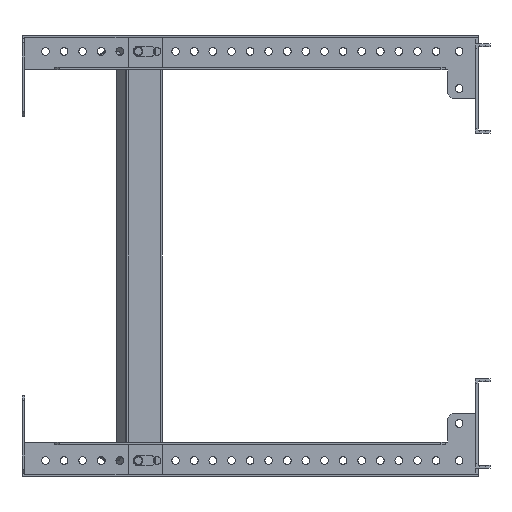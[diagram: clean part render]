
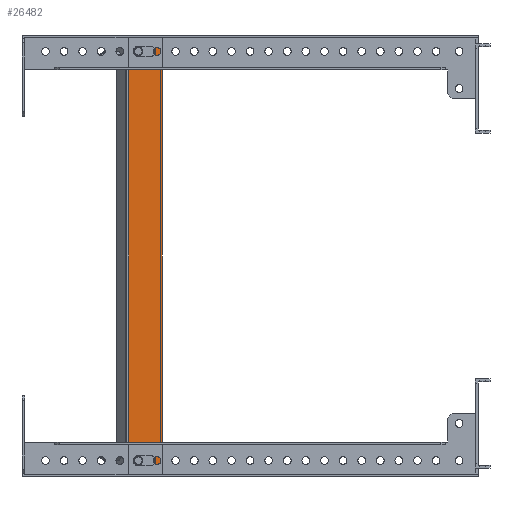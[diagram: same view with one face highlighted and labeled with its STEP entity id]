
A CAD part, front view. The second image highlights one B-rep face of the part: STEP entity #26482.
In plain terms, the highlighted planar face has unit normal (0, -1, 0).
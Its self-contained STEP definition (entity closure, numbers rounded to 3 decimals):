
#71 = EDGE_CURVE ( 'NONE', #9405, #11727, #2263, .T. ) ;
#706 = DIRECTION ( 'NONE',  ( 0., 1., 0. ) ) ;
#759 = CIRCLE ( 'NONE', #1211, 3.5 ) ;
#1138 = DIRECTION ( 'NONE',  ( 0., 1., 0. ) ) ;
#1211 = AXIS2_PLACEMENT_3D ( 'NONE', #3841, #23213, #12353 ) ;
#1271 = LINE ( 'NONE', #14102, #6064 ) ;
#1375 = CARTESIAN_POINT ( 'NONE',  ( 1105.77, -253.815, -147.5 ) ) ;
#1735 = VERTEX_POINT ( 'NONE', #25307 ) ;
#1842 = FACE_OUTER_BOUND ( 'NONE', #18860, .T. ) ;
#1977 = CARTESIAN_POINT ( 'NONE',  ( 1150.737, -253.815, 0. ) ) ;
#2080 = LINE ( 'NONE', #6403, #17326 ) ;
#2263 = CIRCLE ( 'NONE', #12085, 3.5 ) ;
#2271 = AXIS2_PLACEMENT_3D ( 'NONE', #1977, #20653, #16619 ) ;
#2337 = CARTESIAN_POINT ( 'NONE',  ( 1105.77, -253.815, -147.5 ) ) ;
#2359 = VERTEX_POINT ( 'NONE', #3775 ) ;
#2439 = CARTESIAN_POINT ( 'NONE',  ( 1108.77, -253.815, 137.5 ) ) ;
#2601 = ORIENTED_EDGE ( 'NONE', *, *, #8710, .F. ) ;
#2612 = LINE ( 'NONE', #26031, #22251 ) ;
#3095 = DIRECTION ( 'NONE',  ( 0., 0., 1. ) ) ;
#3204 = DIRECTION ( 'NONE',  ( -1., 0., 0. ) ) ;
#3479 = CIRCLE ( 'NONE', #26244, 3.5 ) ;
#3596 = EDGE_CURVE ( 'NONE', #26574, #19999, #9375, .T. ) ;
#3775 = CARTESIAN_POINT ( 'NONE',  ( 1120.27, -253.815, 134. ) ) ;
#3841 = CARTESIAN_POINT ( 'NONE',  ( 1120.27, -253.815, -137.5 ) ) ;
#4091 = VERTEX_POINT ( 'NONE', #27291 ) ;
#4719 = DIRECTION ( 'NONE',  ( -1., 0., 0. ) ) ;
#5126 = AXIS2_PLACEMENT_3D ( 'NONE', #15613, #15192, #4719 ) ;
#5410 = VERTEX_POINT ( 'NONE', #9397 ) ;
#5493 = ORIENTED_EDGE ( 'NONE', *, *, #23642, .F. ) ;
#5541 = ORIENTED_EDGE ( 'NONE', *, *, #26620, .T. ) ;
#5559 = LINE ( 'NONE', #11971, #7805 ) ;
#5907 = DIRECTION ( 'NONE',  ( -1., 0., 0. ) ) ;
#6064 = VECTOR ( 'NONE', #22449, 1000. ) ;
#6322 = EDGE_CURVE ( 'NONE', #19887, #1735, #759, .T. ) ;
#6403 = CARTESIAN_POINT ( 'NONE',  ( 1112.27, -253.815, -141. ) ) ;
#6559 = CARTESIAN_POINT ( 'NONE',  ( 1128.272, -253.815, -147.5 ) ) ;
#6730 = CIRCLE ( 'NONE', #17876, 3.5 ) ;
#6919 = VECTOR ( 'NONE', #3095, 1000. ) ;
#7274 = CARTESIAN_POINT ( 'NONE',  ( 1112.27, -253.815, -141. ) ) ;
#7623 = ORIENTED_EDGE ( 'NONE', *, *, #10801, .F. ) ;
#7805 = VECTOR ( 'NONE', #14086, 1000. ) ;
#7979 = FACE_BOUND ( 'NONE', #26967, .T. ) ;
#8079 = ORIENTED_EDGE ( 'NONE', *, *, #6322, .F. ) ;
#8112 = EDGE_CURVE ( 'NONE', #11727, #19887, #2080, .T. ) ;
#8710 = EDGE_CURVE ( 'NONE', #1735, #15584, #23613, .T. ) ;
#8744 = DIRECTION ( 'NONE',  ( -1., 0., 0. ) ) ;
#8812 = CARTESIAN_POINT ( 'NONE',  ( 1112.27, -253.815, -134. ) ) ;
#9061 = ORIENTED_EDGE ( 'NONE', *, *, #10681, .F. ) ;
#9097 = DIRECTION ( 'NONE',  ( -1., 0., 0. ) ) ;
#9375 = LINE ( 'NONE', #26658, #6919 ) ;
#9397 = CARTESIAN_POINT ( 'NONE',  ( 1112.27, -253.815, 141. ) ) ;
#9405 = VERTEX_POINT ( 'NONE', #21053 ) ;
#9625 = VERTEX_POINT ( 'NONE', #14081 ) ;
#10079 = PLANE ( 'NONE',  #2271 ) ;
#10681 = EDGE_CURVE ( 'NONE', #15584, #9405, #27372, .T. ) ;
#10801 = EDGE_CURVE ( 'NONE', #9625, #19999, #5559, .T. ) ;
#11253 = DIRECTION ( 'NONE',  ( 0., 0., 1. ) ) ;
#11400 = CARTESIAN_POINT ( 'NONE',  ( 1128.272, -253.815, 147.5 ) ) ;
#11727 = VERTEX_POINT ( 'NONE', #7274 ) ;
#11971 = CARTESIAN_POINT ( 'NONE',  ( 1105.77, -253.815, 147.5 ) ) ;
#11992 = DIRECTION ( 'NONE',  ( -1., 0., 0. ) ) ;
#12085 = AXIS2_PLACEMENT_3D ( 'NONE', #12718, #16516, #5907 ) ;
#12124 = ORIENTED_EDGE ( 'NONE', *, *, #15849, .T. ) ;
#12353 = DIRECTION ( 'NONE',  ( -1., 0., 0. ) ) ;
#12718 = CARTESIAN_POINT ( 'NONE',  ( 1112.27, -253.815, -137.5 ) ) ;
#12833 = DIRECTION ( 'NONE',  ( -1., 0., 0. ) ) ;
#12905 = VECTOR ( 'NONE', #11253, 1000. ) ;
#14036 = VERTEX_POINT ( 'NONE', #21713 ) ;
#14072 = EDGE_LOOP ( 'NONE', ( #16961, #18276, #9061, #2601, #8079 ) ) ;
#14081 = CARTESIAN_POINT ( 'NONE',  ( 1105.77, -253.815, 147.5 ) ) ;
#14086 = DIRECTION ( 'NONE',  ( 1., 0., 0. ) ) ;
#14102 = CARTESIAN_POINT ( 'NONE',  ( 1112.27, -253.815, 141. ) ) ;
#14592 = VECTOR ( 'NONE', #23830, 1000. ) ;
#14673 = FACE_BOUND ( 'NONE', #14072, .T. ) ;
#15192 = DIRECTION ( 'NONE',  ( 0., -1., 0. ) ) ;
#15204 = CARTESIAN_POINT ( 'NONE',  ( 1120.27, -253.815, 137.5 ) ) ;
#15584 = VERTEX_POINT ( 'NONE', #16400 ) ;
#15613 = CARTESIAN_POINT ( 'NONE',  ( 1112.27, -253.815, -137.5 ) ) ;
#15849 = EDGE_CURVE ( 'NONE', #16582, #5410, #3479, .T. ) ;
#16052 = CARTESIAN_POINT ( 'NONE',  ( 1112.27, -253.815, 137.5 ) ) ;
#16311 = AXIS2_PLACEMENT_3D ( 'NONE', #16052, #20497, #3204 ) ;
#16400 = CARTESIAN_POINT ( 'NONE',  ( 1112.27, -253.815, -134. ) ) ;
#16516 = DIRECTION ( 'NONE',  ( 0., -1., 0. ) ) ;
#16582 = VERTEX_POINT ( 'NONE', #2439 ) ;
#16619 = DIRECTION ( 'NONE',  ( 1., 0., 0. ) ) ;
#16961 = ORIENTED_EDGE ( 'NONE', *, *, #8112, .F. ) ;
#17326 = VECTOR ( 'NONE', #25624, 1000. ) ;
#17876 = AXIS2_PLACEMENT_3D ( 'NONE', #15204, #706, #12833 ) ;
#18276 = ORIENTED_EDGE ( 'NONE', *, *, #71, .F. ) ;
#18852 = ORIENTED_EDGE ( 'NONE', *, *, #21052, .T. ) ;
#18860 = EDGE_LOOP ( 'NONE', ( #7623, #24227, #5493, #19269 ) ) ;
#19269 = ORIENTED_EDGE ( 'NONE', *, *, #3596, .T. ) ;
#19640 = LINE ( 'NONE', #24116, #14592 ) ;
#19654 = EDGE_CURVE ( 'NONE', #5410, #14036, #1271, .T. ) ;
#19683 = EDGE_CURVE ( 'NONE', #4091, #16582, #21634, .T. ) ;
#19887 = VERTEX_POINT ( 'NONE', #21850 ) ;
#19999 = VERTEX_POINT ( 'NONE', #11400 ) ;
#20497 = DIRECTION ( 'NONE',  ( 0., 1., 0. ) ) ;
#20653 = DIRECTION ( 'NONE',  ( 0., 1., 0. ) ) ;
#21035 = EDGE_CURVE ( 'NONE', #24189, #9625, #25754, .T. ) ;
#21052 = EDGE_CURVE ( 'NONE', #2359, #4091, #2612, .T. ) ;
#21053 = CARTESIAN_POINT ( 'NONE',  ( 1108.77, -253.815, -137.5 ) ) ;
#21634 = CIRCLE ( 'NONE', #16311, 3.5 ) ;
#21713 = CARTESIAN_POINT ( 'NONE',  ( 1120.27, -253.815, 141. ) ) ;
#21850 = CARTESIAN_POINT ( 'NONE',  ( 1120.27, -253.815, -141. ) ) ;
#22251 = VECTOR ( 'NONE', #8744, 1000. ) ;
#22449 = DIRECTION ( 'NONE',  ( 1., 0., 0. ) ) ;
#23213 = DIRECTION ( 'NONE',  ( 0., -1., 0. ) ) ;
#23613 = LINE ( 'NONE', #8812, #27070 ) ;
#23642 = EDGE_CURVE ( 'NONE', #26574, #24189, #19640, .T. ) ;
#23830 = DIRECTION ( 'NONE',  ( -1., 0., 0. ) ) ;
#24116 = CARTESIAN_POINT ( 'NONE',  ( 1150.113, -253.815, -147.5 ) ) ;
#24189 = VERTEX_POINT ( 'NONE', #1375 ) ;
#24227 = ORIENTED_EDGE ( 'NONE', *, *, #21035, .F. ) ;
#24542 = ORIENTED_EDGE ( 'NONE', *, *, #19654, .T. ) ;
#24674 = CARTESIAN_POINT ( 'NONE',  ( 1112.27, -253.815, 137.5 ) ) ;
#25307 = CARTESIAN_POINT ( 'NONE',  ( 1120.27, -253.815, -134. ) ) ;
#25624 = DIRECTION ( 'NONE',  ( 1., 0., 0. ) ) ;
#25754 = LINE ( 'NONE', #2337, #12905 ) ;
#26031 = CARTESIAN_POINT ( 'NONE',  ( 1112.27, -253.815, 134. ) ) ;
#26244 = AXIS2_PLACEMENT_3D ( 'NONE', #24674, #1138, #11992 ) ;
#26482 = ADVANCED_FACE ( 'NONE', ( #7979, #14673, #1842 ), #10079, .F. ) ;
#26574 = VERTEX_POINT ( 'NONE', #6559 ) ;
#26620 = EDGE_CURVE ( 'NONE', #14036, #2359, #6730, .T. ) ;
#26658 = CARTESIAN_POINT ( 'NONE',  ( 1128.272, -253.815, -150.859 ) ) ;
#26675 = ORIENTED_EDGE ( 'NONE', *, *, #19683, .T. ) ;
#26967 = EDGE_LOOP ( 'NONE', ( #26675, #12124, #24542, #5541, #18852 ) ) ;
#27070 = VECTOR ( 'NONE', #9097, 1000. ) ;
#27291 = CARTESIAN_POINT ( 'NONE',  ( 1112.27, -253.815, 134. ) ) ;
#27372 = CIRCLE ( 'NONE', #5126, 3.5 ) ;
